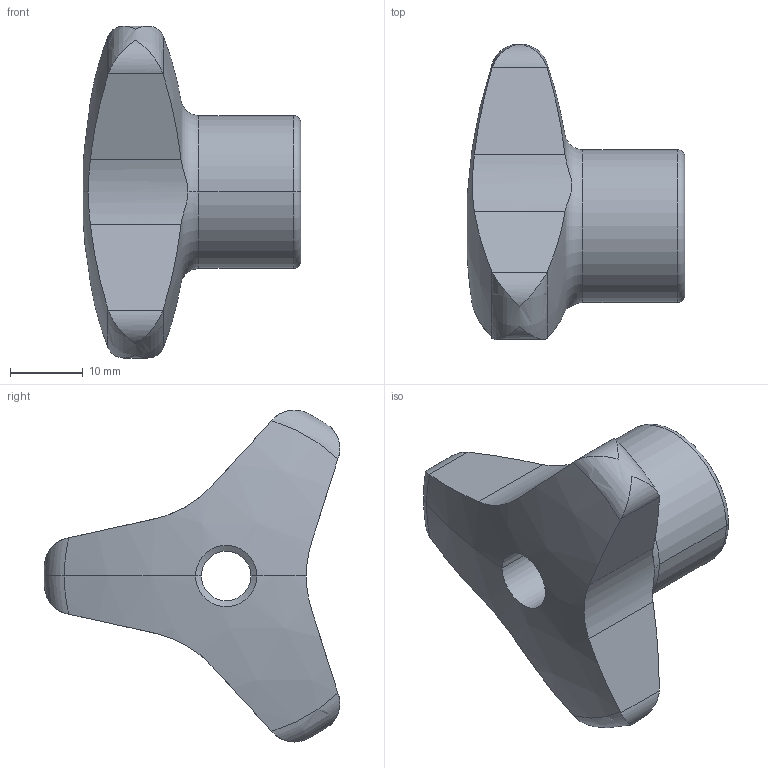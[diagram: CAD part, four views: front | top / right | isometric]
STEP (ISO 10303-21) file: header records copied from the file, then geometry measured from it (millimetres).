
FILE_DESCRIPTION (( 'STEP AP214' ), '1' );
FILE_NAME ('5345-50-M8-D.step', '2019-06-13T08:49:04', ( 'user' ), ( '' ), 'SwSTEP 2.0', 'SolidWorks 2019', '' );
FILE_SCHEMA (( 'AUTOMOTIVE_DESIGN' ));
Length unit declared in the file: millimetre
Products named in the file (1): 5345-50-M8-D
Bounding box: 29.88 x 40.58 x 45.59 mm (x, y, z)
Volume: 14978.5 mm3; surface area: 4843.2 mm2
Topology: 1 solids, 1 shells, 39 faces, 107 edges, 69 vertices
Faces by surface type: cylinder 16, torus 8, plane 7, sphere 6, cone 2
Entity records: 1557 total; most frequent: CARTESIAN_POINT 542, ORIENTED_EDGE 214, DIRECTION 193, EDGE_CURVE 107, AXIS2_PLACEMENT_3D 86, VERTEX_POINT 69, CIRCLE 46, B_SPLINE_CURVE_WITH_KNOTS 40
